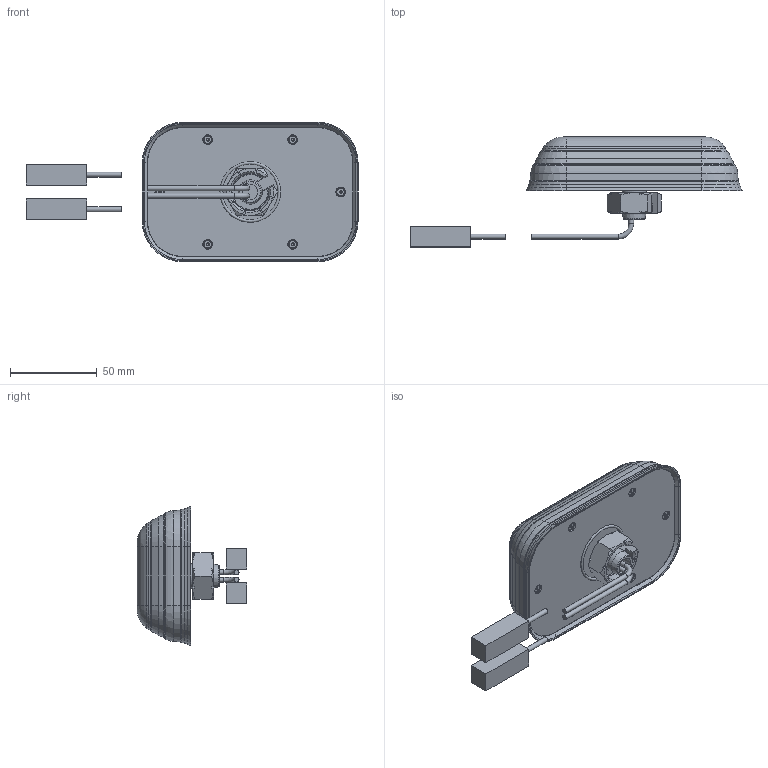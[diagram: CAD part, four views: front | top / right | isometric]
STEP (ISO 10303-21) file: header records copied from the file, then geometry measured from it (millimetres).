
FILE_DESCRIPTION(/* description */ ('STEP AP203'),/* implementation_level */ '2;1');
FILE_NAME(/* name */ 'P_MZ_Z_1656',/* time_stamp */ '2023-03-02T11:11:07+01:00',/* author */ ('License CC BY-ND 4.0'),/* organization */ ('CADENAS'),/* preprocessor_version */ 'ST-DEVELOPER v18.102',/* originating_system */ 'PARTsolutions',/* authorisation */ ' ');
FILE_SCHEMA (('CONFIG_CONTROL_DESIGN'));
Length unit declared in the file: millimetre
Products named in the file (4): P_MZ_Z_1656; P_MZ_Z_1656_P3; P_MZ_Z_1656_P2; P_MZ_Z_1656_P1
Assembly tree (4 placements, depth 2):
  P_MZ_Z_1656
    P_MZ_Z_1656_P3  x2
    P_MZ_Z_1656_P2
    P_MZ_Z_1656_P1
Bounding box: 191.38 x 63.4 x 80.3 mm (x, y, z)
Volume: 233437.7 mm3; surface area: 36297.3 mm2
Topology: 4 solids, 4 shells, 550 faces, 1375 edges, 866 vertices
Faces by surface type: cylinder 218, plane 205, cone 75, torus 52
Full cylindrical faces by diameter (mm): 2.8 x6, 4.3 x6, 5.5 x6, 14 x1, 32 x1, 35 x1
Entity records: 19321 total; most frequent: CARTESIAN_POINT 3018, DIRECTION 2922, ORIENTED_EDGE 2638, EDGE_CURVE 1319, AXIS2_PLACEMENT_3D 1156, VERTEX_POINT 852, EDGE_LOOP 611, FACE_BOUND 611
